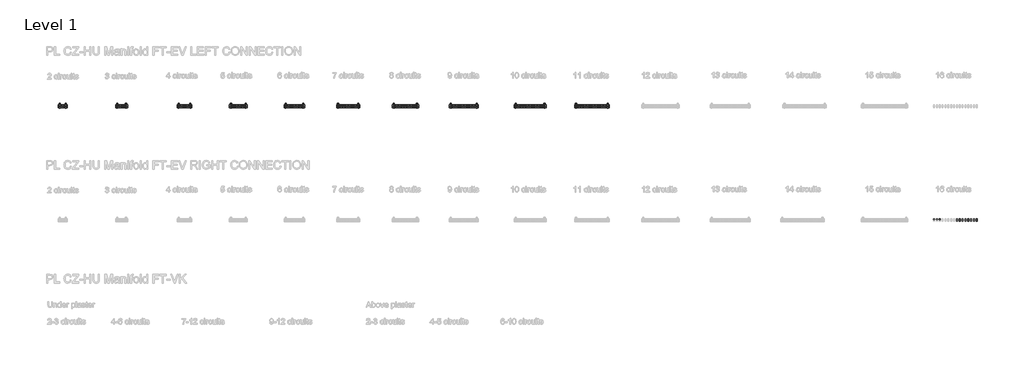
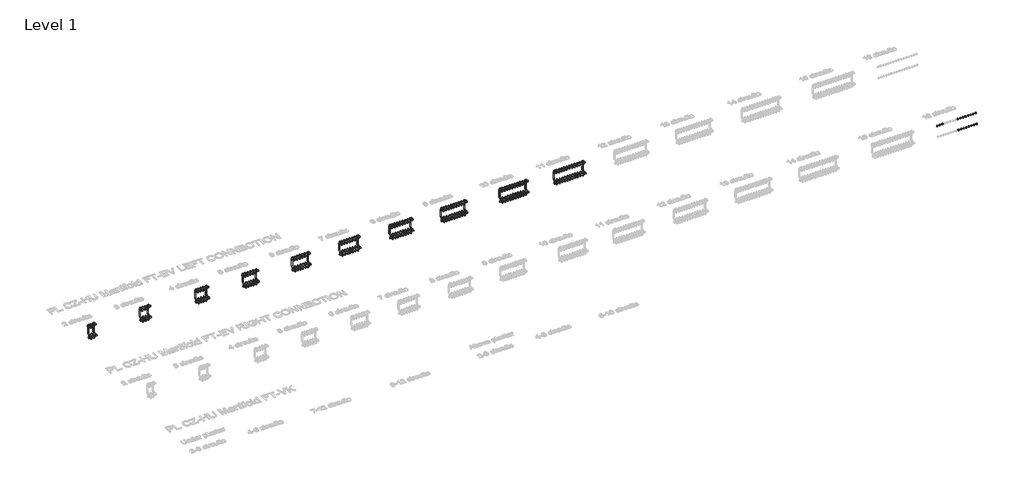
# One storey, part 3 of 13: 127 pipe fittings, 10 valves.
"""IFC4 building model written with IfcOpenShell, lengths in millimetres."""

from ifc_helpers import new_model, si_unit, origin, place, context, project, spatial, transform, mapped, element, save
from components import pipe_fitting_03c6499f, valve_ba84b301, valve_6797e1c4, valve_1d137561, valve_fda01fd1, valve_d8e88841, valve_cedec59f, valve_da24817b, valve_cd8652ac, valve_1cd17e95, valve_440f56c5, valve_c1a5959c, valve_5755080d, valve_f5936556, valve_d1a48dd4, valve_9c135178, valve_fde89ab8, valve_2528c4ae, valve_8079e6f7, valve_ce1a9fe1, valve_b9d05faa, valve_5ebee82e

model = new_model("IFC4")

# Units and contexts
model_context = context("Model", 3, world=origin())
ifc_project = project(units=[si_unit("LENGTHUNIT", "METRE", prefix="MILLI")], contexts=[model_context])

# Site, building, storey
site = spatial("IfcSite", under=ifc_project)
building = spatial("IfcBuilding", under=site)
storey = spatial("IfcBuildingStorey", under=building, Name="Level 1", Elevation=0.0)

# Pipe fittings
placement = place(None, origin())
pipe_fitting_shape = pipe_fitting_03c6499f(model_context)
element("IfcPipeFitting", 1, ObjectType="Euroconus screwing for multilayer pipes - Manifold FT : Euroconus screwing for multilayer pipes - Manifold FT", at=placement, inside=storey, context=model_context, shape_type="MappedRepresentation", body=[
    mapped(pipe_fitting_shape, transform((1338.7757306, 1582.3227774, -37.0816103), x_axis=(0.0, 0.0, -1.0), y_axis=(0.0, 1.0000000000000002, 0.0), z_axis=(1.0000000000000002, 0.0, 0.0))),
])
element("IfcPipeFitting", 2, ObjectType="Euroconus screwing for multilayer pipes - Manifold FT : Euroconus screwing for multilayer pipes - Manifold FT", at=placement, inside=storey, context=model_context, shape_type="MappedRepresentation", body=[
    mapped(pipe_fitting_shape, transform((1288.7757306, 1582.3227774, -37.0816103), x_axis=(0.0, 0.0, -1.0), y_axis=(0.0, 1.0000000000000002, 0.0), z_axis=(1.0000000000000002, 0.0, 0.0))),
])
element("IfcPipeFitting", 3, ObjectType="Euroconus screwing for multilayer pipes - Manifold FT : Euroconus screwing for multilayer pipes - Manifold FT", at=placement, inside=storey, context=model_context, shape_type="MappedRepresentation", body=[
    mapped(pipe_fitting_shape, transform((1338.7757306, 1607.3227774, 172.88733), x_axis=(0.0, 0.0, -1.0), y_axis=(0.0, 1.0000000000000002, 0.0), z_axis=(1.0000000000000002, 0.0, 0.0))),
])
element("IfcPipeFitting", 4, ObjectType="Euroconus screwing for multilayer pipes - Manifold FT : Euroconus screwing for multilayer pipes - Manifold FT", at=placement, inside=storey, context=model_context, shape_type="MappedRepresentation", body=[
    mapped(pipe_fitting_shape, transform((1288.7757306, 1607.3227774, 172.88733), x_axis=(0.0, 0.0, -1.0), y_axis=(0.0, 1.0000000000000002, 0.0), z_axis=(1.0000000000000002, 0.0, 0.0))),
])
element("IfcPipeFitting", 5, ObjectType="Euroconus screwing for multilayer pipes - Manifold FT : Euroconus screwing for multilayer pipes - Manifold FT", at=placement, inside=storey, context=model_context, shape_type="MappedRepresentation", body=[
    mapped(pipe_fitting_shape, transform((2347.2354504, 1582.3227774, -37.0816103), x_axis=(0.0, 0.0, -1.0), y_axis=(0.0, 1.0000000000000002, 0.0), z_axis=(1.0000000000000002, 0.0, 0.0))),
])
element("IfcPipeFitting", 6, ObjectType="Euroconus screwing for multilayer pipes - Manifold FT : Euroconus screwing for multilayer pipes - Manifold FT", at=placement, inside=storey, context=model_context, shape_type="MappedRepresentation", body=[
    mapped(pipe_fitting_shape, transform((2397.2354504, 1582.3227774, -37.0816103), x_axis=(0.0, 0.0, -1.0), y_axis=(0.0, 1.0000000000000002, 0.0), z_axis=(1.0000000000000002, 0.0, 0.0))),
])
element("IfcPipeFitting", 7, ObjectType="Euroconus screwing for multilayer pipes - Manifold FT : Euroconus screwing for multilayer pipes - Manifold FT", at=placement, inside=storey, context=model_context, shape_type="MappedRepresentation", body=[
    mapped(pipe_fitting_shape, transform((2297.2354504, 1582.3227774, -37.0816103), x_axis=(0.0, 0.0, -1.0), y_axis=(0.0, 1.0000000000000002, 0.0), z_axis=(1.0000000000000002, 0.0, 0.0))),
])
element("IfcPipeFitting", 8, ObjectType="Euroconus screwing for multilayer pipes - Manifold FT : Euroconus screwing for multilayer pipes - Manifold FT", at=placement, inside=storey, context=model_context, shape_type="MappedRepresentation", body=[
    mapped(pipe_fitting_shape, transform((2347.2354504, 1607.3227774, 172.88733), x_axis=(0.0, 0.0, -1.0), y_axis=(0.0, 1.0000000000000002, 0.0), z_axis=(1.0000000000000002, 0.0, 0.0))),
])
element("IfcPipeFitting", 9, ObjectType="Euroconus screwing for multilayer pipes - Manifold FT : Euroconus screwing for multilayer pipes - Manifold FT", at=placement, inside=storey, context=model_context, shape_type="MappedRepresentation", body=[
    mapped(pipe_fitting_shape, transform((2397.2354504, 1607.3227774, 172.88733), x_axis=(0.0, 0.0, -1.0), y_axis=(0.0, 1.0000000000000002, 0.0), z_axis=(1.0000000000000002, 0.0, 0.0))),
])
element("IfcPipeFitting", 10, ObjectType="Euroconus screwing for multilayer pipes - Manifold FT : Euroconus screwing for multilayer pipes - Manifold FT", at=placement, inside=storey, context=model_context, shape_type="MappedRepresentation", body=[
    mapped(pipe_fitting_shape, transform((2297.2354504, 1607.3227774, 172.88733), x_axis=(0.0, 0.0, -1.0), y_axis=(0.0, 1.0000000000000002, 0.0), z_axis=(1.0000000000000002, 0.0, 0.0))),
])
element("IfcPipeFitting", 11, ObjectType="Euroconus screwing for multilayer pipes - Manifold FT : Euroconus screwing for multilayer pipes - Manifold FT", at=placement, inside=storey, context=model_context, shape_type="MappedRepresentation", body=[
    mapped(pipe_fitting_shape, transform((3477.2354504, 1582.3227774, -37.0816103), x_axis=(0.0, 0.0, -1.0), y_axis=(0.0, 1.0000000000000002, 0.0), z_axis=(1.0000000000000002, 0.0, 0.0))),
])
element("IfcPipeFitting", 12, ObjectType="Euroconus screwing for multilayer pipes - Manifold FT : Euroconus screwing for multilayer pipes - Manifold FT", at=placement, inside=storey, context=model_context, shape_type="MappedRepresentation", body=[
    mapped(pipe_fitting_shape, transform((3427.2354504, 1582.3227774, -37.0816103), x_axis=(0.0, 0.0, -1.0), y_axis=(0.0, 1.0000000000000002, 0.0), z_axis=(1.0000000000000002, 0.0, 0.0))),
])
element("IfcPipeFitting", 13, ObjectType="Euroconus screwing for multilayer pipes - Manifold FT : Euroconus screwing for multilayer pipes - Manifold FT", at=placement, inside=storey, context=model_context, shape_type="MappedRepresentation", body=[
    mapped(pipe_fitting_shape, transform((3527.2354504, 1582.3227774, -37.0816103), x_axis=(0.0, 0.0, -1.0), y_axis=(0.0, 1.0000000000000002, 0.0), z_axis=(1.0000000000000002, 0.0, 0.0))),
])
element("IfcPipeFitting", 14, ObjectType="Euroconus screwing for multilayer pipes - Manifold FT : Euroconus screwing for multilayer pipes - Manifold FT", at=placement, inside=storey, context=model_context, shape_type="MappedRepresentation", body=[
    mapped(pipe_fitting_shape, transform((3377.2354504, 1582.3227774, -37.0816103), x_axis=(0.0, 0.0, -1.0), y_axis=(0.0, 1.0000000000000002, 0.0), z_axis=(1.0000000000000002, 0.0, 0.0))),
])
element("IfcPipeFitting", 15, ObjectType="Euroconus screwing for multilayer pipes - Manifold FT : Euroconus screwing for multilayer pipes - Manifold FT", at=placement, inside=storey, context=model_context, shape_type="MappedRepresentation", body=[
    mapped(pipe_fitting_shape, transform((3477.2354504, 1607.3227774, 172.88733), x_axis=(0.0, 0.0, -1.0), y_axis=(0.0, 1.0000000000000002, 0.0), z_axis=(1.0000000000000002, 0.0, 0.0))),
])
element("IfcPipeFitting", 16, ObjectType="Euroconus screwing for multilayer pipes - Manifold FT : Euroconus screwing for multilayer pipes - Manifold FT", at=placement, inside=storey, context=model_context, shape_type="MappedRepresentation", body=[
    mapped(pipe_fitting_shape, transform((3427.2354504, 1607.3227774, 172.88733), x_axis=(0.0, 0.0, -1.0), y_axis=(0.0, 1.0000000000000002, 0.0), z_axis=(1.0000000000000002, 0.0, 0.0))),
])
element("IfcPipeFitting", 17, ObjectType="Euroconus screwing for multilayer pipes - Manifold FT : Euroconus screwing for multilayer pipes - Manifold FT", at=placement, inside=storey, context=model_context, shape_type="MappedRepresentation", body=[
    mapped(pipe_fitting_shape, transform((3527.2354504, 1607.3227774, 172.88733), x_axis=(0.0, 0.0, -1.0), y_axis=(0.0, 1.0000000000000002, 0.0), z_axis=(1.0000000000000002, 0.0, 0.0))),
])
element("IfcPipeFitting", 18, ObjectType="Euroconus screwing for multilayer pipes - Manifold FT : Euroconus screwing for multilayer pipes - Manifold FT", at=placement, inside=storey, context=model_context, shape_type="MappedRepresentation", body=[
    mapped(pipe_fitting_shape, transform((3377.2354504, 1607.3227774, 172.88733), x_axis=(0.0, 0.0, -1.0), y_axis=(0.0, 1.0000000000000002, 0.0), z_axis=(1.0000000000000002, 0.0, 0.0))),
])
element("IfcPipeFitting", 19, ObjectType="Euroconus screwing for multilayer pipes - Manifold FT : Euroconus screwing for multilayer pipes - Manifold FT", at=placement, inside=storey, context=model_context, shape_type="MappedRepresentation", body=[
    mapped(pipe_fitting_shape, transform((4447.2354504, 1582.3227774, -37.0816103), x_axis=(0.0, 0.0, -1.0), y_axis=(0.0, 1.0000000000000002, 0.0), z_axis=(1.0000000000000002, 0.0, 0.0))),
])
element("IfcPipeFitting", 20, ObjectType="Euroconus screwing for multilayer pipes - Manifold FT : Euroconus screwing for multilayer pipes - Manifold FT", at=placement, inside=storey, context=model_context, shape_type="MappedRepresentation", body=[
    mapped(pipe_fitting_shape, transform((4397.2354504, 1582.3227774, -37.0816103), x_axis=(0.0, 0.0, -1.0), y_axis=(0.0, 1.0000000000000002, 0.0), z_axis=(1.0000000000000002, 0.0, 0.0))),
])
element("IfcPipeFitting", 21, ObjectType="Euroconus screwing for multilayer pipes - Manifold FT : Euroconus screwing for multilayer pipes - Manifold FT", at=placement, inside=storey, context=model_context, shape_type="MappedRepresentation", body=[
    mapped(pipe_fitting_shape, transform((4347.2354504, 1582.3227774, -37.0816103), x_axis=(0.0, 0.0, -1.0), y_axis=(0.0, 1.0000000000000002, 0.0), z_axis=(1.0000000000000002, 0.0, 0.0))),
])
element("IfcPipeFitting", 22, ObjectType="Euroconus screwing for multilayer pipes - Manifold FT : Euroconus screwing for multilayer pipes - Manifold FT", at=placement, inside=storey, context=model_context, shape_type="MappedRepresentation", body=[
    mapped(pipe_fitting_shape, transform((4497.2354504, 1582.3227774, -37.0816103), x_axis=(0.0, 0.0, -1.0), y_axis=(0.0, 1.0000000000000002, 0.0), z_axis=(1.0000000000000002, 0.0, 0.0))),
])
element("IfcPipeFitting", 23, ObjectType="Euroconus screwing for multilayer pipes - Manifold FT : Euroconus screwing for multilayer pipes - Manifold FT", at=placement, inside=storey, context=model_context, shape_type="MappedRepresentation", body=[
    mapped(pipe_fitting_shape, transform((4297.2354504, 1582.3227774, -37.0816103), x_axis=(0.0, 0.0, -1.0), y_axis=(0.0, 1.0000000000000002, 0.0), z_axis=(1.0000000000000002, 0.0, 0.0))),
])
element("IfcPipeFitting", 24, ObjectType="Euroconus screwing for multilayer pipes - Manifold FT : Euroconus screwing for multilayer pipes - Manifold FT", at=placement, inside=storey, context=model_context, shape_type="MappedRepresentation", body=[
    mapped(pipe_fitting_shape, transform((4447.2354504, 1607.3227774, 172.88733), x_axis=(0.0, 0.0, -1.0), y_axis=(0.0, 1.0000000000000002, 0.0), z_axis=(1.0000000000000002, 0.0, 0.0))),
])
element("IfcPipeFitting", 25, ObjectType="Euroconus screwing for multilayer pipes - Manifold FT : Euroconus screwing for multilayer pipes - Manifold FT", at=placement, inside=storey, context=model_context, shape_type="MappedRepresentation", body=[
    mapped(pipe_fitting_shape, transform((4397.2354504, 1607.3227774, 172.88733), x_axis=(0.0, 0.0, -1.0), y_axis=(0.0, 1.0000000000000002, 0.0), z_axis=(1.0000000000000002, 0.0, 0.0))),
])
element("IfcPipeFitting", 26, ObjectType="Euroconus screwing for multilayer pipes - Manifold FT : Euroconus screwing for multilayer pipes - Manifold FT", at=placement, inside=storey, context=model_context, shape_type="MappedRepresentation", body=[
    mapped(pipe_fitting_shape, transform((4347.2354504, 1607.3227774, 172.88733), x_axis=(0.0, 0.0, -1.0), y_axis=(0.0, 1.0000000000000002, 0.0), z_axis=(1.0000000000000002, 0.0, 0.0))),
])
element("IfcPipeFitting", 27, ObjectType="Euroconus screwing for multilayer pipes - Manifold FT : Euroconus screwing for multilayer pipes - Manifold FT", at=placement, inside=storey, context=model_context, shape_type="MappedRepresentation", body=[
    mapped(pipe_fitting_shape, transform((4497.2354504, 1607.3227774, 172.88733), x_axis=(0.0, 0.0, -1.0), y_axis=(0.0, 1.0000000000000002, 0.0), z_axis=(1.0000000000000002, 0.0, 0.0))),
])
element("IfcPipeFitting", 28, ObjectType="Euroconus screwing for multilayer pipes - Manifold FT : Euroconus screwing for multilayer pipes - Manifold FT", at=placement, inside=storey, context=model_context, shape_type="MappedRepresentation", body=[
    mapped(pipe_fitting_shape, transform((4297.2354504, 1607.3227774, 172.88733), x_axis=(0.0, 0.0, -1.0), y_axis=(0.0, 1.0000000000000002, 0.0), z_axis=(1.0000000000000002, 0.0, 0.0))),
])
element("IfcPipeFitting", 29, ObjectType="Euroconus screwing for multilayer pipes - Manifold FT : Euroconus screwing for multilayer pipes - Manifold FT", at=placement, inside=storey, context=model_context, shape_type="MappedRepresentation", body=[
    mapped(pipe_fitting_shape, transform((5457.2354504, 1582.3227774, -37.0816103), x_axis=(0.0, 0.0, -1.0), y_axis=(0.0, 1.0000000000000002, 0.0), z_axis=(1.0000000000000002, 0.0, 0.0))),
])
element("IfcPipeFitting", 30, ObjectType="Euroconus screwing for multilayer pipes - Manifold FT : Euroconus screwing for multilayer pipes - Manifold FT", at=placement, inside=storey, context=model_context, shape_type="MappedRepresentation", body=[
    mapped(pipe_fitting_shape, transform((5407.2354504, 1582.3227774, -37.0816103), x_axis=(0.0, 0.0, -1.0), y_axis=(0.0, 1.0000000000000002, 0.0), z_axis=(1.0000000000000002, 0.0, 0.0))),
])
element("IfcPipeFitting", 31, ObjectType="Euroconus screwing for multilayer pipes - Manifold FT : Euroconus screwing for multilayer pipes - Manifold FT", at=placement, inside=storey, context=model_context, shape_type="MappedRepresentation", body=[
    mapped(pipe_fitting_shape, transform((5357.2354504, 1582.3227774, -37.0816103), x_axis=(0.0, 0.0, -1.0), y_axis=(0.0, 1.0000000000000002, 0.0), z_axis=(1.0000000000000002, 0.0, 0.0))),
])
element("IfcPipeFitting", 32, ObjectType="Euroconus screwing for multilayer pipes - Manifold FT : Euroconus screwing for multilayer pipes - Manifold FT", at=placement, inside=storey, context=model_context, shape_type="MappedRepresentation", body=[
    mapped(pipe_fitting_shape, transform((5307.2354504, 1582.3227774, -37.0816103), x_axis=(0.0, 0.0, -1.0), y_axis=(0.0, 1.0000000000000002, 0.0), z_axis=(1.0000000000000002, 0.0, 0.0))),
])
element("IfcPipeFitting", 33, ObjectType="Euroconus screwing for multilayer pipes - Manifold FT : Euroconus screwing for multilayer pipes - Manifold FT", at=placement, inside=storey, context=model_context, shape_type="MappedRepresentation", body=[
    mapped(pipe_fitting_shape, transform((5507.2354504, 1582.3227774, -37.0816103), x_axis=(0.0, 0.0, -1.0), y_axis=(0.0, 1.0000000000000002, 0.0), z_axis=(1.0000000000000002, 0.0, 0.0))),
])
element("IfcPipeFitting", 34, ObjectType="Euroconus screwing for multilayer pipes - Manifold FT : Euroconus screwing for multilayer pipes - Manifold FT", at=placement, inside=storey, context=model_context, shape_type="MappedRepresentation", body=[
    mapped(pipe_fitting_shape, transform((5257.2354504, 1582.3227774, -37.0816103), x_axis=(0.0, 0.0, -1.0), y_axis=(0.0, 1.0000000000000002, 0.0), z_axis=(1.0000000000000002, 0.0, 0.0))),
])
element("IfcPipeFitting", 35, ObjectType="Euroconus screwing for multilayer pipes - Manifold FT : Euroconus screwing for multilayer pipes - Manifold FT", at=placement, inside=storey, context=model_context, shape_type="MappedRepresentation", body=[
    mapped(pipe_fitting_shape, transform((5457.2354504, 1607.3227774, 172.88733), x_axis=(0.0, 0.0, -1.0), y_axis=(0.0, 1.0000000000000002, 0.0), z_axis=(1.0000000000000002, 0.0, 0.0))),
])
element("IfcPipeFitting", 36, ObjectType="Euroconus screwing for multilayer pipes - Manifold FT : Euroconus screwing for multilayer pipes - Manifold FT", at=placement, inside=storey, context=model_context, shape_type="MappedRepresentation", body=[
    mapped(pipe_fitting_shape, transform((5407.2354504, 1607.3227774, 172.88733), x_axis=(0.0, 0.0, -1.0), y_axis=(0.0, 1.0000000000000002, 0.0), z_axis=(1.0000000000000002, 0.0, 0.0))),
])
element("IfcPipeFitting", 37, ObjectType="Euroconus screwing for multilayer pipes - Manifold FT : Euroconus screwing for multilayer pipes - Manifold FT", at=placement, inside=storey, context=model_context, shape_type="MappedRepresentation", body=[
    mapped(pipe_fitting_shape, transform((5357.2354504, 1607.3227774, 172.88733), x_axis=(0.0, 0.0, -1.0), y_axis=(0.0, 1.0000000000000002, 0.0), z_axis=(1.0000000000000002, 0.0, 0.0))),
])
element("IfcPipeFitting", 38, ObjectType="Euroconus screwing for multilayer pipes - Manifold FT : Euroconus screwing for multilayer pipes - Manifold FT", at=placement, inside=storey, context=model_context, shape_type="MappedRepresentation", body=[
    mapped(pipe_fitting_shape, transform((5307.2354504, 1607.3227774, 172.88733), x_axis=(0.0, 0.0, -1.0), y_axis=(0.0, 1.0000000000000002, 0.0), z_axis=(1.0000000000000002, 0.0, 0.0))),
])
element("IfcPipeFitting", 39, ObjectType="Euroconus screwing for multilayer pipes - Manifold FT : Euroconus screwing for multilayer pipes - Manifold FT", at=placement, inside=storey, context=model_context, shape_type="MappedRepresentation", body=[
    mapped(pipe_fitting_shape, transform((5507.2354504, 1607.3227774, 172.88733), x_axis=(0.0, 0.0, -1.0), y_axis=(0.0, 1.0000000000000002, 0.0), z_axis=(1.0000000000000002, 0.0, 0.0))),
])
element("IfcPipeFitting", 40, ObjectType="Euroconus screwing for multilayer pipes - Manifold FT : Euroconus screwing for multilayer pipes - Manifold FT", at=placement, inside=storey, context=model_context, shape_type="MappedRepresentation", body=[
    mapped(pipe_fitting_shape, transform((5257.2354504, 1607.3227774, 172.88733), x_axis=(0.0, 0.0, -1.0), y_axis=(0.0, 1.0000000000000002, 0.0), z_axis=(1.0000000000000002, 0.0, 0.0))),
])
element("IfcPipeFitting", 41, ObjectType="Euroconus screwing for multilayer pipes - Manifold FT : Euroconus screwing for multilayer pipes - Manifold FT", at=placement, inside=storey, context=model_context, shape_type="MappedRepresentation", body=[
    mapped(pipe_fitting_shape, transform((6427.2354504, 1582.3227774, -37.0816103), x_axis=(0.0, 0.0, -1.0), y_axis=(0.0, 1.0000000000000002, 0.0), z_axis=(1.0000000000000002, 0.0, 0.0))),
])
element("IfcPipeFitting", 42, ObjectType="Euroconus screwing for multilayer pipes - Manifold FT : Euroconus screwing for multilayer pipes - Manifold FT", at=placement, inside=storey, context=model_context, shape_type="MappedRepresentation", body=[
    mapped(pipe_fitting_shape, transform((6377.2354504, 1582.3227774, -37.0816103), x_axis=(0.0, 0.0, -1.0), y_axis=(0.0, 1.0000000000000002, 0.0), z_axis=(1.0000000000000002, 0.0, 0.0))),
])
element("IfcPipeFitting", 43, ObjectType="Euroconus screwing for multilayer pipes - Manifold FT : Euroconus screwing for multilayer pipes - Manifold FT", at=placement, inside=storey, context=model_context, shape_type="MappedRepresentation", body=[
    mapped(pipe_fitting_shape, transform((6327.2354504, 1582.3227774, -37.0816103), x_axis=(0.0, 0.0, -1.0), y_axis=(0.0, 1.0000000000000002, 0.0), z_axis=(1.0000000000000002, 0.0, 0.0))),
])
element("IfcPipeFitting", 44, ObjectType="Euroconus screwing for multilayer pipes - Manifold FT : Euroconus screwing for multilayer pipes - Manifold FT", at=placement, inside=storey, context=model_context, shape_type="MappedRepresentation", body=[
    mapped(pipe_fitting_shape, transform((6277.2354504, 1582.3227774, -37.0816103), x_axis=(0.0, 0.0, -1.0), y_axis=(0.0, 1.0000000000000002, 0.0), z_axis=(1.0000000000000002, 0.0, 0.0))),
])
element("IfcPipeFitting", 45, ObjectType="Euroconus screwing for multilayer pipes - Manifold FT : Euroconus screwing for multilayer pipes - Manifold FT", at=placement, inside=storey, context=model_context, shape_type="MappedRepresentation", body=[
    mapped(pipe_fitting_shape, transform((6227.2354504, 1582.3227774, -37.0816103), x_axis=(0.0, 0.0, -1.0), y_axis=(0.0, 1.0000000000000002, 0.0), z_axis=(1.0000000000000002, 0.0, 0.0))),
])
element("IfcPipeFitting", 46, ObjectType="Euroconus screwing for multilayer pipes - Manifold FT : Euroconus screwing for multilayer pipes - Manifold FT", at=placement, inside=storey, context=model_context, shape_type="MappedRepresentation", body=[
    mapped(pipe_fitting_shape, transform((6477.2354504, 1582.3227774, -37.0816103), x_axis=(0.0, 0.0, -1.0), y_axis=(0.0, 1.0000000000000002, 0.0), z_axis=(1.0000000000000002, 0.0, 0.0))),
])
element("IfcPipeFitting", 47, ObjectType="Euroconus screwing for multilayer pipes - Manifold FT : Euroconus screwing for multilayer pipes - Manifold FT", at=placement, inside=storey, context=model_context, shape_type="MappedRepresentation", body=[
    mapped(pipe_fitting_shape, transform((6177.2354504, 1582.3227774, -37.0816103), x_axis=(0.0, 0.0, -1.0), y_axis=(0.0, 1.0000000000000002, 0.0), z_axis=(1.0000000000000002, 0.0, 0.0))),
])
element("IfcPipeFitting", 48, ObjectType="Euroconus screwing for multilayer pipes - Manifold FT : Euroconus screwing for multilayer pipes - Manifold FT", at=placement, inside=storey, context=model_context, shape_type="MappedRepresentation", body=[
    mapped(pipe_fitting_shape, transform((6427.2354504, 1607.3227774, 172.88733), x_axis=(0.0, 0.0, -1.0), y_axis=(0.0, 1.0000000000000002, 0.0), z_axis=(1.0000000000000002, 0.0, 0.0))),
])
element("IfcPipeFitting", 49, ObjectType="Euroconus screwing for multilayer pipes - Manifold FT : Euroconus screwing for multilayer pipes - Manifold FT", at=placement, inside=storey, context=model_context, shape_type="MappedRepresentation", body=[
    mapped(pipe_fitting_shape, transform((6377.2354504, 1607.3227774, 172.88733), x_axis=(0.0, 0.0, -1.0), y_axis=(0.0, 1.0000000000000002, 0.0), z_axis=(1.0000000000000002, 0.0, 0.0))),
])
element("IfcPipeFitting", 50, ObjectType="Euroconus screwing for multilayer pipes - Manifold FT : Euroconus screwing for multilayer pipes - Manifold FT", at=placement, inside=storey, context=model_context, shape_type="MappedRepresentation", body=[
    mapped(pipe_fitting_shape, transform((6327.2354504, 1607.3227774, 172.88733), x_axis=(0.0, 0.0, -1.0), y_axis=(0.0, 1.0000000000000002, 0.0), z_axis=(1.0000000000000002, 0.0, 0.0))),
])
element("IfcPipeFitting", 51, ObjectType="Euroconus screwing for multilayer pipes - Manifold FT : Euroconus screwing for multilayer pipes - Manifold FT", at=placement, inside=storey, context=model_context, shape_type="MappedRepresentation", body=[
    mapped(pipe_fitting_shape, transform((6277.2354504, 1607.3227774, 172.88733), x_axis=(0.0, 0.0, -1.0), y_axis=(0.0, 1.0000000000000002, 0.0), z_axis=(1.0000000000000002, 0.0, 0.0))),
])
element("IfcPipeFitting", 52, ObjectType="Euroconus screwing for multilayer pipes - Manifold FT : Euroconus screwing for multilayer pipes - Manifold FT", at=placement, inside=storey, context=model_context, shape_type="MappedRepresentation", body=[
    mapped(pipe_fitting_shape, transform((6227.2354504, 1607.3227774, 172.88733), x_axis=(0.0, 0.0, -1.0), y_axis=(0.0, 1.0000000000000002, 0.0), z_axis=(1.0000000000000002, 0.0, 0.0))),
])
element("IfcPipeFitting", 53, ObjectType="Euroconus screwing for multilayer pipes - Manifold FT : Euroconus screwing for multilayer pipes - Manifold FT", at=placement, inside=storey, context=model_context, shape_type="MappedRepresentation", body=[
    mapped(pipe_fitting_shape, transform((6477.2354504, 1607.3227774, 172.88733), x_axis=(0.0, 0.0, -1.0), y_axis=(0.0, 1.0000000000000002, 0.0), z_axis=(1.0000000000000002, 0.0, 0.0))),
])
element("IfcPipeFitting", 54, ObjectType="Euroconus screwing for multilayer pipes - Manifold FT : Euroconus screwing for multilayer pipes - Manifold FT", at=placement, inside=storey, context=model_context, shape_type="MappedRepresentation", body=[
    mapped(pipe_fitting_shape, transform((6177.2354504, 1607.3227774, 172.88733), x_axis=(0.0, 0.0, -1.0), y_axis=(0.0, 1.0000000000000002, 0.0), z_axis=(1.0000000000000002, 0.0, 0.0))),
])
element("IfcPipeFitting", 55, ObjectType="Euroconus screwing for multilayer pipes - Manifold FT : Euroconus screwing for multilayer pipes - Manifold FT", at=placement, inside=storey, context=model_context, shape_type="MappedRepresentation", body=[
    mapped(pipe_fitting_shape, transform((7457.2354504, 1582.3227774, -37.0816103), x_axis=(0.0, 0.0, -1.0), y_axis=(0.0, 1.0000000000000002, 0.0), z_axis=(1.0000000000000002, 0.0, 0.0))),
])
element("IfcPipeFitting", 56, ObjectType="Euroconus screwing for multilayer pipes - Manifold FT : Euroconus screwing for multilayer pipes - Manifold FT", at=placement, inside=storey, context=model_context, shape_type="MappedRepresentation", body=[
    mapped(pipe_fitting_shape, transform((7407.2354504, 1582.3227774, -37.0816103), x_axis=(0.0, 0.0, -1.0), y_axis=(0.0, 1.0000000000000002, 0.0), z_axis=(1.0000000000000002, 0.0, 0.0))),
])
element("IfcPipeFitting", 57, ObjectType="Euroconus screwing for multilayer pipes - Manifold FT : Euroconus screwing for multilayer pipes - Manifold FT", at=placement, inside=storey, context=model_context, shape_type="MappedRepresentation", body=[
    mapped(pipe_fitting_shape, transform((7357.2354504, 1582.3227774, -37.0816103), x_axis=(0.0, 0.0, -1.0), y_axis=(0.0, 1.0000000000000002, 0.0), z_axis=(1.0000000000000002, 0.0, 0.0))),
])
element("IfcPipeFitting", 58, ObjectType="Euroconus screwing for multilayer pipes - Manifold FT : Euroconus screwing for multilayer pipes - Manifold FT", at=placement, inside=storey, context=model_context, shape_type="MappedRepresentation", body=[
    mapped(pipe_fitting_shape, transform((7307.2354504, 1582.3227774, -37.0816103), x_axis=(0.0, 0.0, -1.0), y_axis=(0.0, 1.0000000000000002, 0.0), z_axis=(1.0000000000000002, 0.0, 0.0))),
])
element("IfcPipeFitting", 59, ObjectType="Euroconus screwing for multilayer pipes - Manifold FT : Euroconus screwing for multilayer pipes - Manifold FT", at=placement, inside=storey, context=model_context, shape_type="MappedRepresentation", body=[
    mapped(pipe_fitting_shape, transform((7257.2354504, 1582.3227774, -37.0816103), x_axis=(0.0, 0.0, -1.0), y_axis=(0.0, 1.0000000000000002, 0.0), z_axis=(1.0000000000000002, 0.0, 0.0))),
])
element("IfcPipeFitting", 60, ObjectType="Euroconus screwing for multilayer pipes - Manifold FT : Euroconus screwing for multilayer pipes - Manifold FT", at=placement, inside=storey, context=model_context, shape_type="MappedRepresentation", body=[
    mapped(pipe_fitting_shape, transform((7207.2354504, 1582.3227774, -37.0816103), x_axis=(0.0, 0.0, -1.0), y_axis=(0.0, 1.0000000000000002, 0.0), z_axis=(1.0000000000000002, 0.0, 0.0))),
])
element("IfcPipeFitting", 61, ObjectType="Euroconus screwing for multilayer pipes - Manifold FT : Euroconus screwing for multilayer pipes - Manifold FT", at=placement, inside=storey, context=model_context, shape_type="MappedRepresentation", body=[
    mapped(pipe_fitting_shape, transform((7507.2354504, 1582.3227774, -37.0816103), x_axis=(0.0, 0.0, -1.0), y_axis=(0.0, 1.0000000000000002, 0.0), z_axis=(1.0000000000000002, 0.0, 0.0))),
])
element("IfcPipeFitting", 62, ObjectType="Euroconus screwing for multilayer pipes - Manifold FT : Euroconus screwing for multilayer pipes - Manifold FT", at=placement, inside=storey, context=model_context, shape_type="MappedRepresentation", body=[
    mapped(pipe_fitting_shape, transform((7157.2354504, 1582.3227774, -37.0816103), x_axis=(0.0, 0.0, -1.0), y_axis=(0.0, 1.0000000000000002, 0.0), z_axis=(1.0000000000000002, 0.0, 0.0))),
])
element("IfcPipeFitting", 63, ObjectType="Euroconus screwing for multilayer pipes - Manifold FT : Euroconus screwing for multilayer pipes - Manifold FT", at=placement, inside=storey, context=model_context, shape_type="MappedRepresentation", body=[
    mapped(pipe_fitting_shape, transform((7457.2354504, 1607.3227774, 172.88733), x_axis=(0.0, 0.0, -1.0), y_axis=(0.0, 1.0000000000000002, 0.0), z_axis=(1.0000000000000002, 0.0, 0.0))),
])
element("IfcPipeFitting", 64, ObjectType="Euroconus screwing for multilayer pipes - Manifold FT : Euroconus screwing for multilayer pipes - Manifold FT", at=placement, inside=storey, context=model_context, shape_type="MappedRepresentation", body=[
    mapped(pipe_fitting_shape, transform((7407.2354504, 1607.3227774, 172.88733), x_axis=(0.0, 0.0, -1.0), y_axis=(0.0, 1.0000000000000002, 0.0), z_axis=(1.0000000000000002, 0.0, 0.0))),
])
element("IfcPipeFitting", 65, ObjectType="Euroconus screwing for multilayer pipes - Manifold FT : Euroconus screwing for multilayer pipes - Manifold FT", at=placement, inside=storey, context=model_context, shape_type="MappedRepresentation", body=[
    mapped(pipe_fitting_shape, transform((7357.2354504, 1607.3227774, 172.88733), x_axis=(0.0, 0.0, -1.0), y_axis=(0.0, 1.0000000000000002, 0.0), z_axis=(1.0000000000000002, 0.0, 0.0))),
])
element("IfcPipeFitting", 66, ObjectType="Euroconus screwing for multilayer pipes - Manifold FT : Euroconus screwing for multilayer pipes - Manifold FT", at=placement, inside=storey, context=model_context, shape_type="MappedRepresentation", body=[
    mapped(pipe_fitting_shape, transform((7307.2354504, 1607.3227774, 172.88733), x_axis=(0.0, 0.0, -1.0), y_axis=(0.0, 1.0000000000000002, 0.0), z_axis=(1.0000000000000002, 0.0, 0.0))),
])
element("IfcPipeFitting", 67, ObjectType="Euroconus screwing for multilayer pipes - Manifold FT : Euroconus screwing for multilayer pipes - Manifold FT", at=placement, inside=storey, context=model_context, shape_type="MappedRepresentation", body=[
    mapped(pipe_fitting_shape, transform((7257.2354504, 1607.3227774, 172.88733), x_axis=(0.0, 0.0, -1.0), y_axis=(0.0, 1.0000000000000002, 0.0), z_axis=(1.0000000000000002, 0.0, 0.0))),
])
element("IfcPipeFitting", 68, ObjectType="Euroconus screwing for multilayer pipes - Manifold FT : Euroconus screwing for multilayer pipes - Manifold FT", at=placement, inside=storey, context=model_context, shape_type="MappedRepresentation", body=[
    mapped(pipe_fitting_shape, transform((7207.2354504, 1607.3227774, 172.88733), x_axis=(0.0, 0.0, -1.0), y_axis=(0.0, 1.0000000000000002, 0.0), z_axis=(1.0000000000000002, 0.0, 0.0))),
])
element("IfcPipeFitting", 69, ObjectType="Euroconus screwing for multilayer pipes - Manifold FT : Euroconus screwing for multilayer pipes - Manifold FT", at=placement, inside=storey, context=model_context, shape_type="MappedRepresentation", body=[
    mapped(pipe_fitting_shape, transform((7507.2354504, 1607.3227774, 172.88733), x_axis=(0.0, 0.0, -1.0), y_axis=(0.0, 1.0000000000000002, 0.0), z_axis=(1.0000000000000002, 0.0, 0.0))),
])
element("IfcPipeFitting", 70, ObjectType="Euroconus screwing for multilayer pipes - Manifold FT : Euroconus screwing for multilayer pipes - Manifold FT", at=placement, inside=storey, context=model_context, shape_type="MappedRepresentation", body=[
    mapped(pipe_fitting_shape, transform((7157.2354504, 1607.3227774, 172.88733), x_axis=(0.0, 0.0, -1.0), y_axis=(0.0, 1.0000000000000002, 0.0), z_axis=(1.0000000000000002, 0.0, 0.0))),
])
element("IfcPipeFitting", 71, ObjectType="Euroconus screwing for multilayer pipes - Manifold FT : Euroconus screwing for multilayer pipes - Manifold FT", at=placement, inside=storey, context=model_context, shape_type="MappedRepresentation", body=[
    mapped(pipe_fitting_shape, transform((8507.2354504, 1582.3227774, -37.0816103), x_axis=(0.0, 0.0, -1.0), y_axis=(0.0, 1.0000000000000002, 0.0), z_axis=(1.0000000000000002, 0.0, 0.0))),
])
element("IfcPipeFitting", 72, ObjectType="Euroconus screwing for multilayer pipes - Manifold FT : Euroconus screwing for multilayer pipes - Manifold FT", at=placement, inside=storey, context=model_context, shape_type="MappedRepresentation", body=[
    mapped(pipe_fitting_shape, transform((8457.2354504, 1582.3227774, -37.0816103), x_axis=(0.0, 0.0, -1.0), y_axis=(0.0, 1.0000000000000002, 0.0), z_axis=(1.0000000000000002, 0.0, 0.0))),
])
element("IfcPipeFitting", 73, ObjectType="Euroconus screwing for multilayer pipes - Manifold FT : Euroconus screwing for multilayer pipes - Manifold FT", at=placement, inside=storey, context=model_context, shape_type="MappedRepresentation", body=[
    mapped(pipe_fitting_shape, transform((8407.2354504, 1582.3227774, -37.0816103), x_axis=(0.0, 0.0, -1.0), y_axis=(0.0, 1.0000000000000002, 0.0), z_axis=(1.0000000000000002, 0.0, 0.0))),
])
element("IfcPipeFitting", 74, ObjectType="Euroconus screwing for multilayer pipes - Manifold FT : Euroconus screwing for multilayer pipes - Manifold FT", at=placement, inside=storey, context=model_context, shape_type="MappedRepresentation", body=[
    mapped(pipe_fitting_shape, transform((8357.2354504, 1582.3227774, -37.0816103), x_axis=(0.0, 0.0, -1.0), y_axis=(0.0, 1.0000000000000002, 0.0), z_axis=(1.0000000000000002, 0.0, 0.0))),
])
element("IfcPipeFitting", 75, ObjectType="Euroconus screwing for multilayer pipes - Manifold FT : Euroconus screwing for multilayer pipes - Manifold FT", at=placement, inside=storey, context=model_context, shape_type="MappedRepresentation", body=[
    mapped(pipe_fitting_shape, transform((8307.2354504, 1582.3227774, -37.0816103), x_axis=(0.0, 0.0, -1.0), y_axis=(0.0, 1.0000000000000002, 0.0), z_axis=(1.0000000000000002, 0.0, 0.0))),
])
element("IfcPipeFitting", 76, ObjectType="Euroconus screwing for multilayer pipes - Manifold FT : Euroconus screwing for multilayer pipes - Manifold FT", at=placement, inside=storey, context=model_context, shape_type="MappedRepresentation", body=[
    mapped(pipe_fitting_shape, transform((8257.2354504, 1582.3227774, -37.0816103), x_axis=(0.0, 0.0, -1.0), y_axis=(0.0, 1.0000000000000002, 0.0), z_axis=(1.0000000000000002, 0.0, 0.0))),
])
element("IfcPipeFitting", 77, ObjectType="Euroconus screwing for multilayer pipes - Manifold FT : Euroconus screwing for multilayer pipes - Manifold FT", at=placement, inside=storey, context=model_context, shape_type="MappedRepresentation", body=[
    mapped(pipe_fitting_shape, transform((8207.2354504, 1582.3227774, -37.0816103), x_axis=(0.0, 0.0, -1.0), y_axis=(0.0, 1.0000000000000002, 0.0), z_axis=(1.0000000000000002, 0.0, 0.0))),
])
element("IfcPipeFitting", 78, ObjectType="Euroconus screwing for multilayer pipes - Manifold FT : Euroconus screwing for multilayer pipes - Manifold FT", at=placement, inside=storey, context=model_context, shape_type="MappedRepresentation", body=[
    mapped(pipe_fitting_shape, transform((8557.2354504, 1582.3227774, -37.0816103), x_axis=(0.0, 0.0, -1.0), y_axis=(0.0, 1.0000000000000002, 0.0), z_axis=(1.0000000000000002, 0.0, 0.0))),
])
element("IfcPipeFitting", 79, ObjectType="Euroconus screwing for multilayer pipes - Manifold FT : Euroconus screwing for multilayer pipes - Manifold FT", at=placement, inside=storey, context=model_context, shape_type="MappedRepresentation", body=[
    mapped(pipe_fitting_shape, transform((8157.2354504, 1582.3227774, -37.0816103), x_axis=(0.0, 0.0, -1.0), y_axis=(0.0, 1.0000000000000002, 0.0), z_axis=(1.0000000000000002, 0.0, 0.0))),
])
element("IfcPipeFitting", 80, ObjectType="Euroconus screwing for multilayer pipes - Manifold FT : Euroconus screwing for multilayer pipes - Manifold FT", at=placement, inside=storey, context=model_context, shape_type="MappedRepresentation", body=[
    mapped(pipe_fitting_shape, transform((8507.2354504, 1607.3227774, 172.88733), x_axis=(0.0, 0.0, -1.0), y_axis=(0.0, 1.0000000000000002, 0.0), z_axis=(1.0000000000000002, 0.0, 0.0))),
])
element("IfcPipeFitting", 81, ObjectType="Euroconus screwing for multilayer pipes - Manifold FT : Euroconus screwing for multilayer pipes - Manifold FT", at=placement, inside=storey, context=model_context, shape_type="MappedRepresentation", body=[
    mapped(pipe_fitting_shape, transform((8457.2354504, 1607.3227774, 172.88733), x_axis=(0.0, 0.0, -1.0), y_axis=(0.0, 1.0000000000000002, 0.0), z_axis=(1.0000000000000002, 0.0, 0.0))),
])
element("IfcPipeFitting", 82, ObjectType="Euroconus screwing for multilayer pipes - Manifold FT : Euroconus screwing for multilayer pipes - Manifold FT", at=placement, inside=storey, context=model_context, shape_type="MappedRepresentation", body=[
    mapped(pipe_fitting_shape, transform((8407.2354504, 1607.3227774, 172.88733), x_axis=(0.0, 0.0, -1.0), y_axis=(0.0, 1.0000000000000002, 0.0), z_axis=(1.0000000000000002, 0.0, 0.0))),
])
element("IfcPipeFitting", 83, ObjectType="Euroconus screwing for multilayer pipes - Manifold FT : Euroconus screwing for multilayer pipes - Manifold FT", at=placement, inside=storey, context=model_context, shape_type="MappedRepresentation", body=[
    mapped(pipe_fitting_shape, transform((8357.2354504, 1607.3227774, 172.88733), x_axis=(0.0, 0.0, -1.0), y_axis=(0.0, 1.0000000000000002, 0.0), z_axis=(1.0000000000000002, 0.0, 0.0))),
])
element("IfcPipeFitting", 84, ObjectType="Euroconus screwing for multilayer pipes - Manifold FT : Euroconus screwing for multilayer pipes - Manifold FT", at=placement, inside=storey, context=model_context, shape_type="MappedRepresentation", body=[
    mapped(pipe_fitting_shape, transform((8307.2354504, 1607.3227774, 172.88733), x_axis=(0.0, 0.0, -1.0), y_axis=(0.0, 1.0000000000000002, 0.0), z_axis=(1.0000000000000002, 0.0, 0.0))),
])
element("IfcPipeFitting", 85, ObjectType="Euroconus screwing for multilayer pipes - Manifold FT : Euroconus screwing for multilayer pipes - Manifold FT", at=placement, inside=storey, context=model_context, shape_type="MappedRepresentation", body=[
    mapped(pipe_fitting_shape, transform((8257.2354504, 1607.3227774, 172.88733), x_axis=(0.0, 0.0, -1.0), y_axis=(0.0, 1.0000000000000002, 0.0), z_axis=(1.0000000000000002, 0.0, 0.0))),
])
element("IfcPipeFitting", 86, ObjectType="Euroconus screwing for multilayer pipes - Manifold FT : Euroconus screwing for multilayer pipes - Manifold FT", at=placement, inside=storey, context=model_context, shape_type="MappedRepresentation", body=[
    mapped(pipe_fitting_shape, transform((8207.2354504, 1607.3227774, 172.88733), x_axis=(0.0, 0.0, -1.0), y_axis=(0.0, 1.0000000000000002, 0.0), z_axis=(1.0000000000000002, 0.0, 0.0))),
])
element("IfcPipeFitting", 87, ObjectType="Euroconus screwing for multilayer pipes - Manifold FT : Euroconus screwing for multilayer pipes - Manifold FT", at=placement, inside=storey, context=model_context, shape_type="MappedRepresentation", body=[
    mapped(pipe_fitting_shape, transform((8557.2354504, 1607.3227774, 172.88733), x_axis=(0.0, 0.0, -1.0), y_axis=(0.0, 1.0000000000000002, 0.0), z_axis=(1.0000000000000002, 0.0, 0.0))),
])
element("IfcPipeFitting", 88, ObjectType="Euroconus screwing for multilayer pipes - Manifold FT : Euroconus screwing for multilayer pipes - Manifold FT", at=placement, inside=storey, context=model_context, shape_type="MappedRepresentation", body=[
    mapped(pipe_fitting_shape, transform((8157.2354504, 1607.3227774, 172.88733), x_axis=(0.0, 0.0, -1.0), y_axis=(0.0, 1.0000000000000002, 0.0), z_axis=(1.0000000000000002, 0.0, 0.0))),
])
element("IfcPipeFitting", 89, ObjectType="Euroconus screwing for multilayer pipes - Manifold FT : Euroconus screwing for multilayer pipes - Manifold FT", at=placement, inside=storey, context=model_context, shape_type="MappedRepresentation", body=[
    mapped(pipe_fitting_shape, transform((9697.2354504, 1582.3227774, -37.0816103), x_axis=(0.0, 0.0, -1.0), y_axis=(0.0, 1.0000000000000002, 0.0), z_axis=(1.0000000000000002, 0.0, 0.0))),
])
element("IfcPipeFitting", 90, ObjectType="Euroconus screwing for multilayer pipes - Manifold FT : Euroconus screwing for multilayer pipes - Manifold FT", at=placement, inside=storey, context=model_context, shape_type="MappedRepresentation", body=[
    mapped(pipe_fitting_shape, transform((9647.2354504, 1582.3227774, -37.0816103), x_axis=(0.0, 0.0, -1.0), y_axis=(0.0, 1.0000000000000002, 0.0), z_axis=(1.0000000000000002, 0.0, 0.0))),
])
element("IfcPipeFitting", 91, ObjectType="Euroconus screwing for multilayer pipes - Manifold FT : Euroconus screwing for multilayer pipes - Manifold FT", at=placement, inside=storey, context=model_context, shape_type="MappedRepresentation", body=[
    mapped(pipe_fitting_shape, transform((9597.2354504, 1582.3227774, -37.0816103), x_axis=(0.0, 0.0, -1.0), y_axis=(0.0, 1.0000000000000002, 0.0), z_axis=(1.0000000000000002, 0.0, 0.0))),
])
element("IfcPipeFitting", 92, ObjectType="Euroconus screwing for multilayer pipes - Manifold FT : Euroconus screwing for multilayer pipes - Manifold FT", at=placement, inside=storey, context=model_context, shape_type="MappedRepresentation", body=[
    mapped(pipe_fitting_shape, transform((9547.2354504, 1582.3227774, -37.0816103), x_axis=(0.0, 0.0, -1.0), y_axis=(0.0, 1.0000000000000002, 0.0), z_axis=(1.0000000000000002, 0.0, 0.0))),
])
element("IfcPipeFitting", 93, ObjectType="Euroconus screwing for multilayer pipes - Manifold FT : Euroconus screwing for multilayer pipes - Manifold FT", at=placement, inside=storey, context=model_context, shape_type="MappedRepresentation", body=[
    mapped(pipe_fitting_shape, transform((9497.2354504, 1582.3227774, -37.0816103), x_axis=(0.0, 0.0, -1.0), y_axis=(0.0, 1.0000000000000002, 0.0), z_axis=(1.0000000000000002, 0.0, 0.0))),
])
element("IfcPipeFitting", 94, ObjectType="Euroconus screwing for multilayer pipes - Manifold FT : Euroconus screwing for multilayer pipes - Manifold FT", at=placement, inside=storey, context=model_context, shape_type="MappedRepresentation", body=[
    mapped(pipe_fitting_shape, transform((9447.2354504, 1582.3227774, -37.0816103), x_axis=(0.0, 0.0, -1.0), y_axis=(0.0, 1.0000000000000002, 0.0), z_axis=(1.0000000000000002, 0.0, 0.0))),
])
element("IfcPipeFitting", 95, ObjectType="Euroconus screwing for multilayer pipes - Manifold FT : Euroconus screwing for multilayer pipes - Manifold FT", at=placement, inside=storey, context=model_context, shape_type="MappedRepresentation", body=[
    mapped(pipe_fitting_shape, transform((9397.2354504, 1582.3227774, -37.0816103), x_axis=(0.0, 0.0, -1.0), y_axis=(0.0, 1.0000000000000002, 0.0), z_axis=(1.0000000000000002, 0.0, 0.0))),
])
element("IfcPipeFitting", 96, ObjectType="Euroconus screwing for multilayer pipes - Manifold FT : Euroconus screwing for multilayer pipes - Manifold FT", at=placement, inside=storey, context=model_context, shape_type="MappedRepresentation", body=[
    mapped(pipe_fitting_shape, transform((9347.2354504, 1582.3227774, -37.0816103), x_axis=(0.0, 0.0, -1.0), y_axis=(0.0, 1.0000000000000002, 0.0), z_axis=(1.0000000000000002, 0.0, 0.0))),
])
element("IfcPipeFitting", 97, ObjectType="Euroconus screwing for multilayer pipes - Manifold FT : Euroconus screwing for multilayer pipes - Manifold FT", at=placement, inside=storey, context=model_context, shape_type="MappedRepresentation", body=[
    mapped(pipe_fitting_shape, transform((9747.2354504, 1582.3227774, -37.0816103), x_axis=(0.0, 0.0, -1.0), y_axis=(0.0, 1.0000000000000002, 0.0), z_axis=(1.0000000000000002, 0.0, 0.0))),
])
element("IfcPipeFitting", 98, ObjectType="Euroconus screwing for multilayer pipes - Manifold FT : Euroconus screwing for multilayer pipes - Manifold FT", at=placement, inside=storey, context=model_context, shape_type="MappedRepresentation", body=[
    mapped(pipe_fitting_shape, transform((9297.2354504, 1582.3227774, -37.0816103), x_axis=(0.0, 0.0, -1.0), y_axis=(0.0, 1.0000000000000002, 0.0), z_axis=(1.0000000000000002, 0.0, 0.0))),
])
element("IfcPipeFitting", 99, ObjectType="Euroconus screwing for multilayer pipes - Manifold FT : Euroconus screwing for multilayer pipes - Manifold FT", at=placement, inside=storey, context=model_context, shape_type="MappedRepresentation", body=[
    mapped(pipe_fitting_shape, transform((9697.2354504, 1607.3227774, 172.88733), x_axis=(0.0, 0.0, -1.0), y_axis=(0.0, 1.0000000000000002, 0.0), z_axis=(1.0000000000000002, 0.0, 0.0))),
])
element("IfcPipeFitting", 100, ObjectType="Euroconus screwing for multilayer pipes - Manifold FT : Euroconus screwing for multilayer pipes - Manifold FT", at=placement, inside=storey, context=model_context, shape_type="MappedRepresentation", body=[
    mapped(pipe_fitting_shape, transform((9647.2354504, 1607.3227774, 172.88733), x_axis=(0.0, 0.0, -1.0), y_axis=(0.0, 1.0000000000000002, 0.0), z_axis=(1.0000000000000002, 0.0, 0.0))),
])
element("IfcPipeFitting", 101, ObjectType="Euroconus screwing for multilayer pipes - Manifold FT : Euroconus screwing for multilayer pipes - Manifold FT", at=placement, inside=storey, context=model_context, shape_type="MappedRepresentation", body=[
    mapped(pipe_fitting_shape, transform((9597.2354504, 1607.3227774, 172.88733), x_axis=(0.0, 0.0, -1.0), y_axis=(0.0, 1.0000000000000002, 0.0), z_axis=(1.0000000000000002, 0.0, 0.0))),
])
element("IfcPipeFitting", 102, ObjectType="Euroconus screwing for multilayer pipes - Manifold FT : Euroconus screwing for multilayer pipes - Manifold FT", at=placement, inside=storey, context=model_context, shape_type="MappedRepresentation", body=[
    mapped(pipe_fitting_shape, transform((9547.2354504, 1607.3227774, 172.88733), x_axis=(0.0, 0.0, -1.0), y_axis=(0.0, 1.0000000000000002, 0.0), z_axis=(1.0000000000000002, 0.0, 0.0))),
])
element("IfcPipeFitting", 103, ObjectType="Euroconus screwing for multilayer pipes - Manifold FT : Euroconus screwing for multilayer pipes - Manifold FT", at=placement, inside=storey, context=model_context, shape_type="MappedRepresentation", body=[
    mapped(pipe_fitting_shape, transform((9497.2354504, 1607.3227774, 172.88733), x_axis=(0.0, 0.0, -1.0), y_axis=(0.0, 1.0000000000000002, 0.0), z_axis=(1.0000000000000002, 0.0, 0.0))),
])
element("IfcPipeFitting", 104, ObjectType="Euroconus screwing for multilayer pipes - Manifold FT : Euroconus screwing for multilayer pipes - Manifold FT", at=placement, inside=storey, context=model_context, shape_type="MappedRepresentation", body=[
    mapped(pipe_fitting_shape, transform((9447.2354504, 1607.3227774, 172.88733), x_axis=(0.0, 0.0, -1.0), y_axis=(0.0, 1.0000000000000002, 0.0), z_axis=(1.0000000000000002, 0.0, 0.0))),
])
element("IfcPipeFitting", 105, ObjectType="Euroconus screwing for multilayer pipes - Manifold FT : Euroconus screwing for multilayer pipes - Manifold FT", at=placement, inside=storey, context=model_context, shape_type="MappedRepresentation", body=[
    mapped(pipe_fitting_shape, transform((9397.2354504, 1607.3227774, 172.88733), x_axis=(0.0, 0.0, -1.0), y_axis=(0.0, 1.0000000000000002, 0.0), z_axis=(1.0000000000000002, 0.0, 0.0))),
])
element("IfcPipeFitting", 106, ObjectType="Euroconus screwing for multilayer pipes - Manifold FT : Euroconus screwing for multilayer pipes - Manifold FT", at=placement, inside=storey, context=model_context, shape_type="MappedRepresentation", body=[
    mapped(pipe_fitting_shape, transform((9347.2354504, 1607.3227774, 172.88733), x_axis=(0.0, 0.0, -1.0), y_axis=(0.0, 1.0000000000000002, 0.0), z_axis=(1.0000000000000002, 0.0, 0.0))),
])
element("IfcPipeFitting", 107, ObjectType="Euroconus screwing for multilayer pipes - Manifold FT : Euroconus screwing for multilayer pipes - Manifold FT", at=placement, inside=storey, context=model_context, shape_type="MappedRepresentation", body=[
    mapped(pipe_fitting_shape, transform((9747.2354504, 1607.3227774, 172.88733), x_axis=(0.0, 0.0, -1.0), y_axis=(0.0, 1.0000000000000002, 0.0), z_axis=(1.0000000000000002, 0.0, 0.0))),
])
element("IfcPipeFitting", 108, ObjectType="Euroconus screwing for multilayer pipes - Manifold FT : Euroconus screwing for multilayer pipes - Manifold FT", at=placement, inside=storey, context=model_context, shape_type="MappedRepresentation", body=[
    mapped(pipe_fitting_shape, transform((9297.2354504, 1607.3227774, 172.88733), x_axis=(0.0, 0.0, -1.0), y_axis=(0.0, 1.0000000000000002, 0.0), z_axis=(1.0000000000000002, 0.0, 0.0))),
])
element("IfcPipeFitting", 109, ObjectType="Euroconus screwing for multilayer pipes - Manifold FT : Euroconus screwing for multilayer pipes - Manifold FT", at=placement, inside=storey, context=model_context, shape_type="MappedRepresentation", body=[
    mapped(pipe_fitting_shape, transform((17317.2354504, -417.6772226, -37.0816103), x_axis=(0.0, 0.0, -1.0), y_axis=(0.0, 1.0000000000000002, 0.0), z_axis=(1.0000000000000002, 0.0, 0.0))),
])
element("IfcPipeFitting", 110, ObjectType="Euroconus screwing for multilayer pipes - Manifold FT : Euroconus screwing for multilayer pipes - Manifold FT", at=placement, inside=storey, context=model_context, shape_type="MappedRepresentation", body=[
    mapped(pipe_fitting_shape, transform((17267.2354504, -417.6772226, -37.0816103), x_axis=(0.0, 0.0, -1.0), y_axis=(0.0, 1.0000000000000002, 0.0), z_axis=(1.0000000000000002, 0.0, 0.0))),
])
element("IfcPipeFitting", 111, ObjectType="Euroconus screwing for multilayer pipes - Manifold FT : Euroconus screwing for multilayer pipes - Manifold FT", at=placement, inside=storey, context=model_context, shape_type="MappedRepresentation", body=[
    mapped(pipe_fitting_shape, transform((17217.2354504, -417.6772226, -37.0816103), x_axis=(0.0, 0.0, -1.0), y_axis=(0.0, 1.0000000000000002, 0.0), z_axis=(1.0000000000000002, 0.0, 0.0))),
])
element("IfcPipeFitting", 112, ObjectType="Euroconus screwing for multilayer pipes - Manifold FT : Euroconus screwing for multilayer pipes - Manifold FT", at=placement, inside=storey, context=model_context, shape_type="MappedRepresentation", body=[
    mapped(pipe_fitting_shape, transform((17167.2354504, -417.6772226, -37.0816103), x_axis=(0.0, 0.0, -1.0), y_axis=(0.0, 1.0000000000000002, 0.0), z_axis=(1.0000000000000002, 0.0, 0.0))),
])
element("IfcPipeFitting", 113, ObjectType="Euroconus screwing for multilayer pipes - Manifold FT : Euroconus screwing for multilayer pipes - Manifold FT", at=placement, inside=storey, context=model_context, shape_type="MappedRepresentation", body=[
    mapped(pipe_fitting_shape, transform((17117.2354504, -417.6772226, -37.0816103), x_axis=(0.0, 0.0, -1.0), y_axis=(0.0, 1.0000000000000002, 0.0), z_axis=(1.0000000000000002, 0.0, 0.0))),
])
element("IfcPipeFitting", 114, ObjectType="Euroconus screwing for multilayer pipes - Manifold FT : Euroconus screwing for multilayer pipes - Manifold FT", at=placement, inside=storey, context=model_context, shape_type="MappedRepresentation", body=[
    mapped(pipe_fitting_shape, transform((17067.2354504, -417.6772226, -37.0816103), x_axis=(0.0, 0.0, -1.0), y_axis=(0.0, 1.0000000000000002, 0.0), z_axis=(1.0000000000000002, 0.0, 0.0))),
])
element("IfcPipeFitting", 115, ObjectType="Euroconus screwing for multilayer pipes - Manifold FT : Euroconus screwing for multilayer pipes - Manifold FT", at=placement, inside=storey, context=model_context, shape_type="MappedRepresentation", body=[
    mapped(pipe_fitting_shape, transform((17017.2354504, -417.6772226, -37.0816103), x_axis=(0.0, 0.0, -1.0), y_axis=(0.0, 1.0000000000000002, 0.0), z_axis=(1.0000000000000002, 0.0, 0.0))),
])
element("IfcPipeFitting", 116, ObjectType="Euroconus screwing for multilayer pipes - Manifold FT : Euroconus screwing for multilayer pipes - Manifold FT", at=placement, inside=storey, context=model_context, shape_type="MappedRepresentation", body=[
    mapped(pipe_fitting_shape, transform((17367.2354504, -417.6772226, -37.0816103), x_axis=(0.0, 0.0, -1.0), y_axis=(0.0, 1.0000000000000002, 0.0), z_axis=(1.0000000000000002, 0.0, 0.0))),
])
element("IfcPipeFitting", 117, ObjectType="Euroconus screwing for multilayer pipes - Manifold FT : Euroconus screwing for multilayer pipes - Manifold FT", at=placement, inside=storey, context=model_context, shape_type="MappedRepresentation", body=[
    mapped(pipe_fitting_shape, transform((17317.2354504, -392.6772226, 172.88733), x_axis=(0.0, 0.0, -1.0), y_axis=(0.0, 1.0000000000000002, 0.0), z_axis=(1.0000000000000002, 0.0, 0.0))),
])
element("IfcPipeFitting", 118, ObjectType="Euroconus screwing for multilayer pipes - Manifold FT : Euroconus screwing for multilayer pipes - Manifold FT", at=placement, inside=storey, context=model_context, shape_type="MappedRepresentation", body=[
    mapped(pipe_fitting_shape, transform((17267.2354504, -392.6772226, 172.88733), x_axis=(0.0, 0.0, -1.0), y_axis=(0.0, 1.0000000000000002, 0.0), z_axis=(1.0000000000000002, 0.0, 0.0))),
])
element("IfcPipeFitting", 119, ObjectType="Euroconus screwing for multilayer pipes - Manifold FT : Euroconus screwing for multilayer pipes - Manifold FT", at=placement, inside=storey, context=model_context, shape_type="MappedRepresentation", body=[
    mapped(pipe_fitting_shape, transform((17217.2354504, -392.6772226, 172.88733), x_axis=(0.0, 0.0, -1.0), y_axis=(0.0, 1.0000000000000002, 0.0), z_axis=(1.0000000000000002, 0.0, 0.0))),
])
element("IfcPipeFitting", 120, ObjectType="Euroconus screwing for multilayer pipes - Manifold FT : Euroconus screwing for multilayer pipes - Manifold FT", at=placement, inside=storey, context=model_context, shape_type="MappedRepresentation", body=[
    mapped(pipe_fitting_shape, transform((17167.2354504, -392.6772226, 172.88733), x_axis=(0.0, 0.0, -1.0), y_axis=(0.0, 1.0000000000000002, 0.0), z_axis=(1.0000000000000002, 0.0, 0.0))),
])
element("IfcPipeFitting", 121, ObjectType="Euroconus screwing for multilayer pipes - Manifold FT : Euroconus screwing for multilayer pipes - Manifold FT", at=placement, inside=storey, context=model_context, shape_type="MappedRepresentation", body=[
    mapped(pipe_fitting_shape, transform((17117.2354504, -392.6772226, 172.88733), x_axis=(0.0, 0.0, -1.0), y_axis=(0.0, 1.0000000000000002, 0.0), z_axis=(1.0000000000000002, 0.0, 0.0))),
])
element("IfcPipeFitting", 122, ObjectType="Euroconus screwing for multilayer pipes - Manifold FT : Euroconus screwing for multilayer pipes - Manifold FT", at=placement, inside=storey, context=model_context, shape_type="MappedRepresentation", body=[
    mapped(pipe_fitting_shape, transform((17067.2354504, -392.6772226, 172.88733), x_axis=(0.0, 0.0, -1.0), y_axis=(0.0, 1.0000000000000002, 0.0), z_axis=(1.0000000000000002, 0.0, 0.0))),
])
element("IfcPipeFitting", 123, ObjectType="Euroconus screwing for multilayer pipes - Manifold FT : Euroconus screwing for multilayer pipes - Manifold FT", at=placement, inside=storey, context=model_context, shape_type="MappedRepresentation", body=[
    mapped(pipe_fitting_shape, transform((17017.2354504, -392.6772226, 172.88733), x_axis=(0.0, 0.0, -1.0), y_axis=(0.0, 1.0000000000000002, 0.0), z_axis=(1.0000000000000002, 0.0, 0.0))),
])
element("IfcPipeFitting", 124, ObjectType="Euroconus screwing for multilayer pipes - Manifold FT : Euroconus screwing for multilayer pipes - Manifold FT", at=placement, inside=storey, context=model_context, shape_type="MappedRepresentation", body=[
    mapped(pipe_fitting_shape, transform((16717.2354504, -392.6772226, 172.88733), x_axis=(0.0, 0.0, -1.0), y_axis=(0.0, 1.0000000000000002, 0.0), z_axis=(1.0000000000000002, 0.0, 0.0))),
])
element("IfcPipeFitting", 125, ObjectType="Euroconus screwing for multilayer pipes - Manifold FT : Euroconus screwing for multilayer pipes - Manifold FT", at=placement, inside=storey, context=model_context, shape_type="MappedRepresentation", body=[
    mapped(pipe_fitting_shape, transform((16667.2354504, -392.6772226, 172.88733), x_axis=(0.0, 0.0, -1.0), y_axis=(0.0, 1.0000000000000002, 0.0), z_axis=(1.0000000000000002, 0.0, 0.0))),
])
element("IfcPipeFitting", 126, ObjectType="Euroconus screwing for multilayer pipes - Manifold FT : Euroconus screwing for multilayer pipes - Manifold FT", at=placement, inside=storey, context=model_context, shape_type="MappedRepresentation", body=[
    mapped(pipe_fitting_shape, transform((17367.2354504, -392.6772226, 172.88733), x_axis=(0.0, 0.0, -1.0), y_axis=(0.0, 1.0000000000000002, 0.0), z_axis=(1.0000000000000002, 0.0, 0.0))),
])
element("IfcPipeFitting", 127, ObjectType="Euroconus screwing for multilayer pipes - Manifold FT : Euroconus screwing for multilayer pipes - Manifold FT", at=placement, inside=storey, context=model_context, shape_type="MappedRepresentation", body=[
    mapped(pipe_fitting_shape, transform((16617.2354504, -392.6772226, 172.88733), x_axis=(0.0, 0.0, -1.0), y_axis=(0.0, 1.0000000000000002, 0.0), z_axis=(1.0000000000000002, 0.0, 0.0))),
])

# Valves
valve_shape = valve_ba84b301(model_context)
valve_2_shape = valve_6797e1c4(model_context)
valve_3_shape = valve_1d137561(model_context)
element("IfcValve", 128, ObjectType="PL CZ_Manifold_FT-VA : 10 circuits", at=placement, inside=storey, context=model_context, shape_type="MappedRepresentation", body=[
    mapped(valve_shape, transform((9259.2354504, 1582.3227774, 0.0), x_axis=(1.0, 0.0, 0.0), y_axis=(0.0, 1.0, 0.0), z_axis=(0.0, 0.0, 1.0))),
    mapped(valve_2_shape, transform((9259.2354504, 1582.3227774, 0.0), x_axis=(1.0, 0.0, 0.0), y_axis=(0.0, 1.0, 0.0), z_axis=(0.0, 0.0, 1.0))),
    mapped(valve_3_shape, transform((9259.2354504, 1582.3227774, 0.0), x_axis=(1.0, 0.0, 0.0), y_axis=(0.0, 1.0, 0.0), z_axis=(0.0, 0.0, 1.0))),
])
valve_4_shape = valve_fda01fd1(model_context)
element("IfcValve", 129, ObjectType="PL CZ_Manifold_FT-VA : 02 circuits", at=placement, inside=storey, context=model_context, shape_type="MappedRepresentation", body=[
    mapped(valve_4_shape, transform((1250.7757306, 1582.3227774, 0.0), x_axis=(1.0, 0.0, 0.0), y_axis=(0.0, 1.0, 0.0), z_axis=(0.0, 0.0, 1.0))),
])
valve_5_shape = valve_d8e88841(model_context)
element("IfcValve", 130, ObjectType="PL CZ_Manifold_FT-VA : 03 circuits", at=placement, inside=storey, context=model_context, shape_type="MappedRepresentation", body=[
    mapped(valve_5_shape, transform((2259.2354504, 1582.3227774, 0.0), x_axis=(1.0, 0.0, 0.0), y_axis=(0.0, 1.0, 0.0), z_axis=(0.0, 0.0, 1.0))),
])
valve_6_shape = valve_cedec59f(model_context)
valve_7_shape = valve_da24817b(model_context)
element("IfcValve", 131, ObjectType="PL CZ_Manifold_FT-VA : 04 circuits", at=placement, inside=storey, context=model_context, shape_type="MappedRepresentation", body=[
    mapped(valve_6_shape, transform((3339.2354504, 1582.3227774, 0.0), x_axis=(1.0, 0.0, 0.0), y_axis=(0.0, 1.0, 0.0), z_axis=(0.0, 0.0, 1.0))),
    mapped(valve_7_shape, transform((3339.2354504, 1582.3227774, 0.0), x_axis=(1.0, 0.0, 0.0), y_axis=(0.0, 1.0, 0.0), z_axis=(0.0, 0.0, 1.0))),
])
valve_8_shape = valve_cd8652ac(model_context)
valve_9_shape = valve_1cd17e95(model_context)
element("IfcValve", 132, ObjectType="PL CZ_Manifold_FT-VA : 05 circuits", at=placement, inside=storey, context=model_context, shape_type="MappedRepresentation", body=[
    mapped(valve_8_shape, transform((4259.2354504, 1582.3227774, 0.0), x_axis=(1.0, 0.0, 0.0), y_axis=(0.0, 1.0, 0.0), z_axis=(0.0, 0.0, 1.0))),
    mapped(valve_9_shape, transform((4259.2354504, 1582.3227774, 0.0), x_axis=(1.0, 0.0, 0.0), y_axis=(0.0, 1.0, 0.0), z_axis=(0.0, 0.0, 1.0))),
])
valve_10_shape = valve_440f56c5(model_context)
valve_11_shape = valve_c1a5959c(model_context)
element("IfcValve", 133, ObjectType="PL CZ_Manifold_FT-VA : 06 circuits", at=placement, inside=storey, context=model_context, shape_type="MappedRepresentation", body=[
    mapped(valve_10_shape, transform((5219.2354504, 1582.3227774, 0.0), x_axis=(1.0, 0.0, 0.0), y_axis=(0.0, 1.0, 0.0), z_axis=(0.0, 0.0, 1.0))),
    mapped(valve_11_shape, transform((5219.2354504, 1582.3227774, 0.0), x_axis=(1.0, 0.0, 0.0), y_axis=(0.0, 1.0, 0.0), z_axis=(0.0, 0.0, 1.0))),
])
valve_12_shape = valve_5755080d(model_context)
valve_13_shape = valve_f5936556(model_context)
element("IfcValve", 134, ObjectType="PL CZ_Manifold_FT-VA : 07 circuits", at=placement, inside=storey, context=model_context, shape_type="MappedRepresentation", body=[
    mapped(valve_12_shape, transform((6139.2354504, 1582.3227774, 0.0), x_axis=(1.0, 0.0, 0.0), y_axis=(0.0, 1.0, 0.0), z_axis=(0.0, 0.0, 1.0))),
    mapped(valve_13_shape, transform((6139.2354504, 1582.3227774, 0.0), x_axis=(1.0, 0.0, 0.0), y_axis=(0.0, 1.0, 0.0), z_axis=(0.0, 0.0, 1.0))),
])
valve_14_shape = valve_d1a48dd4(model_context)
valve_15_shape = valve_9c135178(model_context)
valve_16_shape = valve_fde89ab8(model_context)
element("IfcValve", 135, ObjectType="PL CZ_Manifold_FT-VA : 08 circuits", at=placement, inside=storey, context=model_context, shape_type="MappedRepresentation", body=[
    mapped(valve_14_shape, transform((7119.2354504, 1582.3227774, 0.0), x_axis=(1.0, 0.0, 0.0), y_axis=(0.0, 1.0, 0.0), z_axis=(0.0, 0.0, 1.0))),
    mapped(valve_15_shape, transform((7119.2354504, 1582.3227774, 0.0), x_axis=(1.0, 0.0, 0.0), y_axis=(0.0, 1.0, 0.0), z_axis=(0.0, 0.0, 1.0))),
    mapped(valve_16_shape, transform((7119.2354504, 1582.3227774, 0.0), x_axis=(1.0, 0.0, 0.0), y_axis=(0.0, 1.0, 0.0), z_axis=(0.0, 0.0, 1.0))),
])
valve_17_shape = valve_2528c4ae(model_context)
valve_18_shape = valve_8079e6f7(model_context)
valve_19_shape = valve_ce1a9fe1(model_context)
element("IfcValve", 136, ObjectType="PL CZ_Manifold_FT-VA : 09 circuits", at=placement, inside=storey, context=model_context, shape_type="MappedRepresentation", body=[
    mapped(valve_17_shape, transform((8119.2354504, 1582.3227774, 0.0), x_axis=(1.0, 0.0, 0.0), y_axis=(0.0, 1.0, 0.0), z_axis=(0.0, 0.0, 1.0))),
    mapped(valve_18_shape, transform((8119.2354504, 1582.3227774, 0.0), x_axis=(1.0, 0.0, 0.0), y_axis=(0.0, 1.0, 0.0), z_axis=(0.0, 0.0, 1.0))),
    mapped(valve_19_shape, transform((8119.2354504, 1582.3227774, 0.0), x_axis=(1.0, 0.0, 0.0), y_axis=(0.0, 1.0, 0.0), z_axis=(0.0, 0.0, 1.0))),
])
valve_20_shape = valve_b9d05faa(model_context)
valve_21_shape = valve_5ebee82e(model_context)
element("IfcValve", 137, ObjectType="PL CZ_Manifold_FT-VA : 11 circuits", at=placement, inside=storey, context=model_context, shape_type="MappedRepresentation", body=[
    mapped(valve_20_shape, transform((10319.2354504, 1582.3227774, 0.0), x_axis=(1.0, 0.0, 0.0), y_axis=(0.0, 1.0, 0.0), z_axis=(0.0, 0.0, 1.0))),
    mapped(valve_12_shape, transform((10319.2354504, 1582.3227774, 0.0), x_axis=(1.0, 0.0, 0.0), y_axis=(0.0, 1.0, 0.0), z_axis=(0.0, 0.0, 1.0))),
    mapped(valve_21_shape, transform((10319.2354504, 1582.3227774, 0.0), x_axis=(1.0, 0.0, 0.0), y_axis=(0.0, 1.0, 0.0), z_axis=(0.0, 0.0, 1.0))),
])

save(model, "model.ifc")
